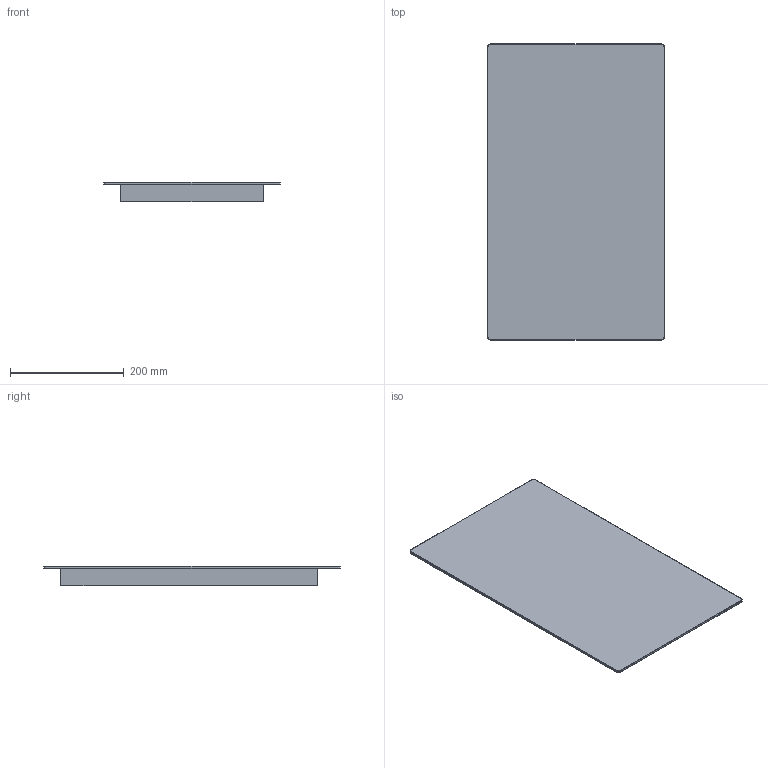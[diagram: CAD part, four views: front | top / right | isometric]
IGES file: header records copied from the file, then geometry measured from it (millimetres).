
Global section: file name: KI1-DB_MOCKUP; native system: unknown; preprocessor: unknown; author: unknown; organization: unknown; date: 20260225.155355; units: millimetre
Bounding box: 310 x 520 x 34 mm (x, y, z)
Volume: 4019537 mm3; surface area: 595253.7 mm2
Topology: 2 solids, 2 shells, 32 faces, 68 edges, 40 vertices
Faces by surface type: bspline 32
